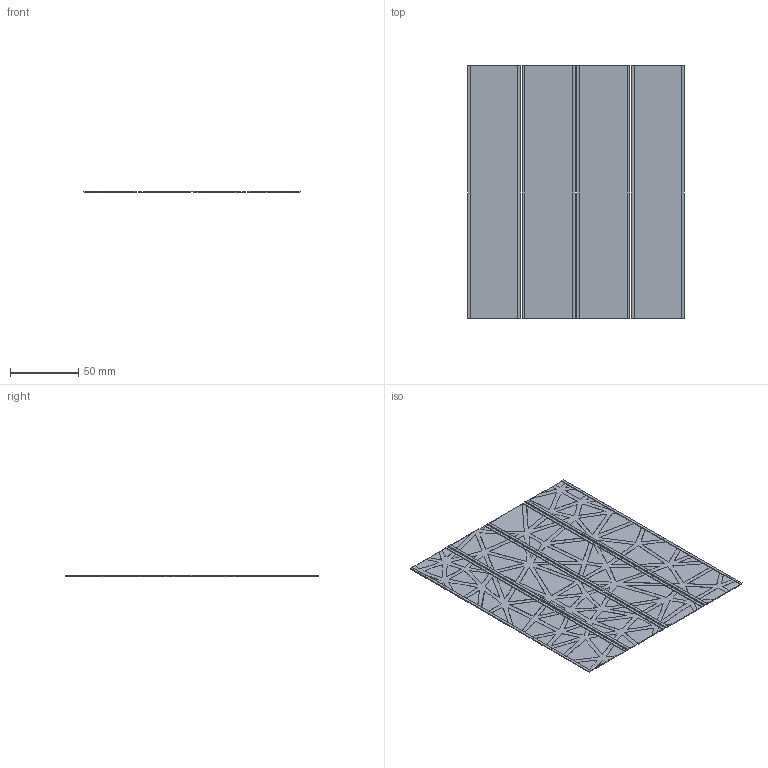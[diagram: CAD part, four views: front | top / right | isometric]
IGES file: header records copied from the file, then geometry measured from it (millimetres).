
Start section: SolidWorks IGES file using analytic representation for surfaces
Global section: file name: E:\Admin\Documents\3d stuff\MyEnclosure\S_T_L\Decor\decor_plugs.IGS; native system: SolidWorks 2024; preprocessor: SolidWorks 2024; author: Admin; date: 260218.152306; units: millimetre
Bounding box: 158.8 x 185.4 x 1 mm (x, y, z)
Surface area: 98786.2 mm2 (no closed solid volume)
Topology: 0 solids, 0 shells, 1327 faces, 11887 edges, 11887 vertices
Faces by surface type: bspline 1327
